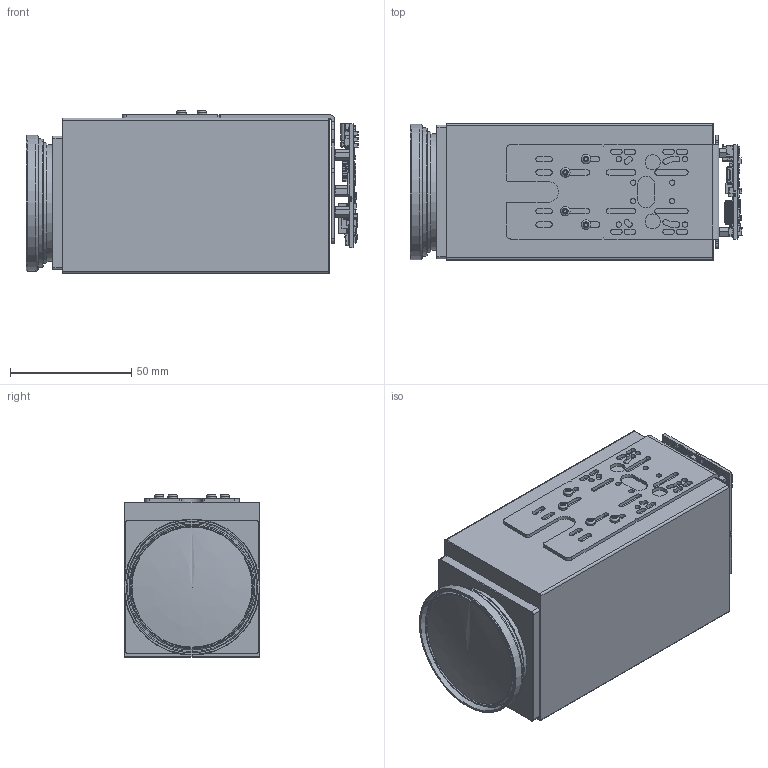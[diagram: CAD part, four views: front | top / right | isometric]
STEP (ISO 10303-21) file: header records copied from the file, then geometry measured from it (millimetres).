
FILE_DESCRIPTION( ( 'Unknown' ), '1' );
FILE_NAME( 'Q:/2003/Product3DCADModels/mm-ap23c06-0156-0101.stp', 'Unknown', ( 'Unknown' ), ( 'Unknown' ), 'PSStep 17.0.49', 'Unknown', ' ' );
FILE_SCHEMA( ( 'AUTOMOTIVE_DESIGN { 1 0 10303 214 1 1 1 1 }' ) );
Length unit declared in the file: millimetre
Products named in the file (411): Body-2; Open_CASCADE_STEP_translator_6.8_2.2.1; Mid_Body; Open_CASCADE_STEP_translator_6.8_25.2.1; Body; Open_CASCADE_STEP_translator_6.8_14.2.1; Pin_Shape; Open_CASCADE_STEP_translator_6.8_14.4.1; Pin_Shape-3; Open_CASCADE_STEP_translator_6.8_19.4.1; Body-1; Body-3; Open_CASCADE_STEP_translator_6.8_9.2.1; Pin_Shape-2; Open_CASCADE_STEP_translator_6.8_9.4.1; Terminal; Open_CASCADE_STEP_translator_6.8_25.1.1; Open_CASCADE_STEP_translator_6.8_25.1.2; Body-4; Open_CASCADE_STEP_translator_6.8_19.2.1; Pin_Shape-1; 7100754704; Thermal_Shape; Open_CASCADE_STEP_translator_6.8_9.1; 7100753264; Open_CASCADE_STEP_translator_6.8_19.1; 6919893648; Extruded; 8636599648; 7187821680; 7100759264; Open_CASCADE_STEP_translator_6.8_14.1; 7100752944; ball; Open_CASCADE_STEP_translator_6.8_2.1; CHP-081TA; _CHP-08-J-Lower-body; _CHP-knobLower; 8685643520; 6920195104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
Assembly tree (1144 placements, depth 6):
  Assem1
    G-806-048H  x4
    EV9500L
    G-028-825A  x3
    bracket-assy
      G-028-825A  x3
      bracket-0378-02
      G-090-651C  x3
    mm-ap23c06-0096-0101
      U1
      L3-985
      Board
        Open CASCADE STEP translator 6.8 4.1.1
          Open CASCADE STEP translator 6.8 4.1.1.1
      C31
        8636596368
          Extruded
      C15
        8636596368
          Extruded
      J6
        CUI_INC_UJ31-CH-G1-SMT-TR
        CUI_INC_UJ31-CH-G1-SMT-TR
      C137
        7187821680
          Extruded
        7187821360  x2
          Extruded
      C133
        8685643520
          Extruded
        8685633920  x2
          Extruded
      C134
        7187821680
          Extruded
        7187821360  x2
          Extruded
      C135
        7187821680
          Extruded
        7187821360  x2
          Extruded
      C136
        7187821680
          Extruded
        7187821360  x2
          Extruded
      R82
        CR1005-0402
        CR1005-0402
        CR1005-0402
        CR1005-0402
      R81
        CR1005-0402
        CR1005-0402
        CR1005-0402
        CR1005-0402
      R39
        8636596368
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Bounding box: 136.8 x 56 x 67.14 mm (x, y, z)
Volume: 440187.4 mm3; surface area: 60322.2 mm2
Topology: 827 solids, 832 shells, 13748 faces, 34524 edges, 22413 vertices
Faces by surface type: plane 11524, cylinder 1706, cone 174, torus 157, sphere 141, bspline 41, revolution 5
Full cylindrical faces by diameter (mm): 0.023 x14, 0.15 x7, 0.164 x7, 0.224 x1, 0.256 x1, 0.4 x12, 0.432 x2, 0.5 x1, 0.512 x1, 0.6 x2, 0.7 x2, 0.75 x1, 1 x1, 1.137 x1, 1.2 x2, 1.567 x3, 1.729 x8, 2 x10, 2.2 x34, 3.88 x4, 6.2 x2, 56 x1
Entity records: 254984 total; most frequent: CARTESIAN_POINT 38243, DIRECTION 32136, ORIENTED_EDGE 31477, EDGE_CURVE 15741, LINE 12581, VECTOR 12581, VERTEX_POINT 10230, AXIS2_PLACEMENT_3D 9775
